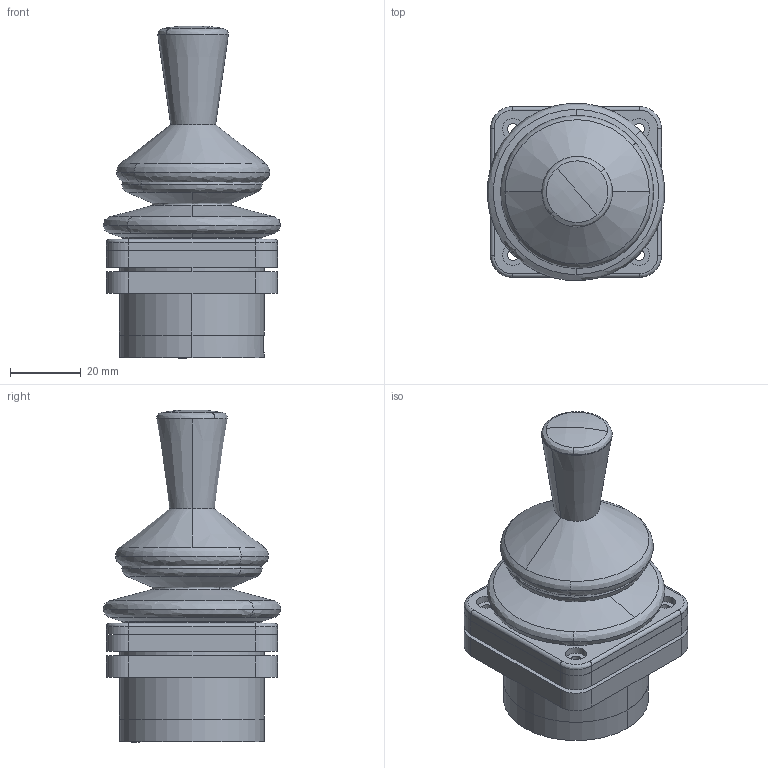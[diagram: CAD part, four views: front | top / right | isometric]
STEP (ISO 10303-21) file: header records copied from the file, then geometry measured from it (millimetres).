
FILE_DESCRIPTION (( 'STEP AP214' ), '1' );
FILE_NAME ('TRY100_1511xxx.STEP', '2013-04-29T08:19:19', ( '' ), ( '' ), 'SwSTEP 2.0', 'SolidWorks 2012', '' );
FILE_SCHEMA (( 'AUTOMOTIVE_DESIGN' ));
Length unit declared in the file: inch
Products named in the file (1): TRY100_1511xxx
Bounding box: 50.04 x 50.04 x 93.63 mm (x, y, z)
Volume: 72539.5 mm3; surface area: 64587.2 mm2
Topology: 20 solids, 20 shells, 822 faces, 2181 edges, 1452 vertices
Faces by surface type: cylinder 409, plane 222, bspline 116, cone 75
Entity records: 31978 total; most frequent: CARTESIAN_POINT 11521, ORIENTED_EDGE 4354, DIRECTION 4219, EDGE_CURVE 2177, AXIS2_PLACEMENT_3D 1700, VERTEX_POINT 1452, CIRCLE 993, EDGE_LOOP 949
